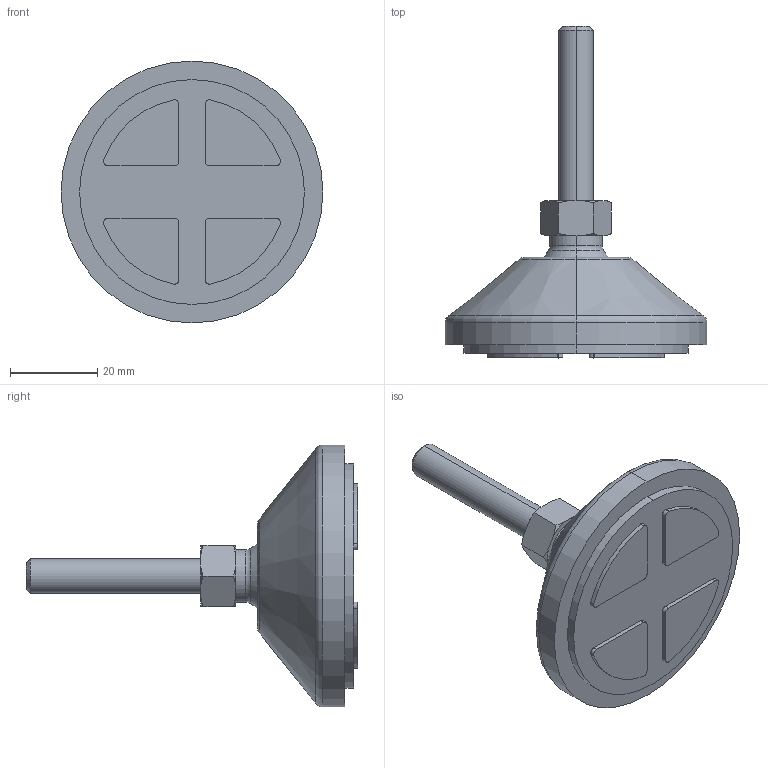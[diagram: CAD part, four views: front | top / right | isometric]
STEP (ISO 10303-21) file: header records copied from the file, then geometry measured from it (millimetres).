
FILE_DESCRIPTION (( 'STEP AP214' ), '1' );
FILE_NAME ('1.5020 S鳵t鐱alka D60 M8.STEP', '2025-09-17T08:17:52', ( '' ), ( '' ), 'SwSTEP 2.0', 'SolidWorks 2025', '' );
FILE_SCHEMA (( 'AUTOMOTIVE_DESIGN' ));
Length unit declared in the file: millimetre
Products named in the file (1): 1.5020 Säätöjalka D60 M8
Bounding box: 60 x 76 x 60 mm (x, y, z)
Volume: 46805.5 mm3; surface area: 9689.7 mm2
Topology: 1 solids, 1 shells, 79 faces, 190 edges, 122 vertices
Faces by surface type: cylinder 30, plane 25, cone 18, torus 6
Entity records: 3191 total; most frequent: CARTESIAN_POINT 496, DIRECTION 414, ORIENTED_EDGE 380, EDGE_CURVE 190, AXIS2_PLACEMENT_3D 168, VERTEX_POINT 122, CIRCLE 88, EDGE_LOOP 88
